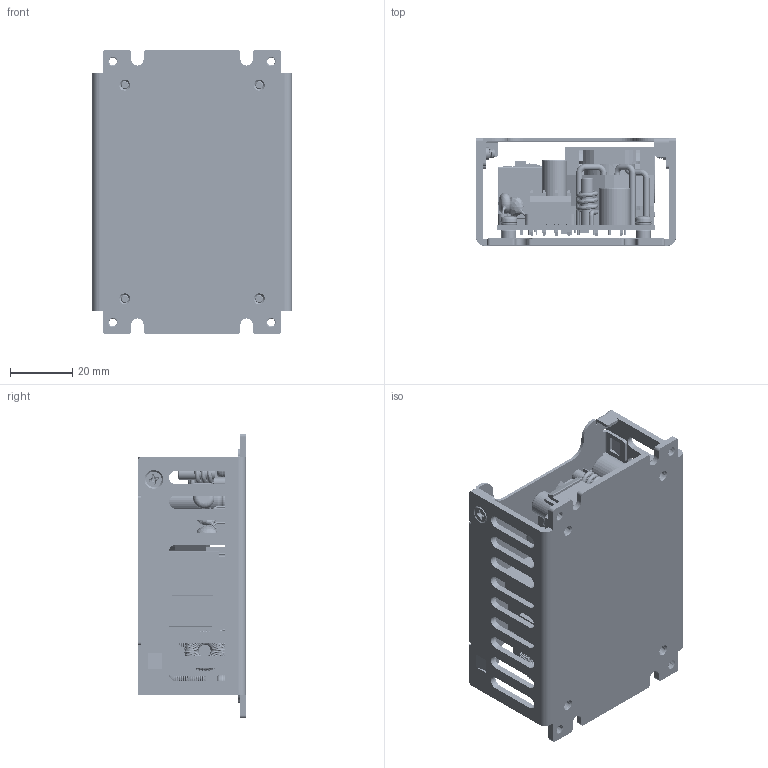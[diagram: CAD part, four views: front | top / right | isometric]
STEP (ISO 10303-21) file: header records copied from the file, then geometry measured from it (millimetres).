
FILE_DESCRIPTION (( 'STEP AP203' ), '1' );
FILE_NAME ('CFM130S(M)XXX-C ¦¨«~¹Ï-1130205.STEP', '2024-07-23T03:50:10', ( 'cincon' ), ( '' ), 'SwSTEP 2.0', 'SolidWorks 2020', '' );
FILE_SCHEMA (( 'CONFIG_CONTROL_DESIGN' ));
Products named in the file (1): CFM130S(M)XXX-C 成品圖-1130205
Bounding box: 64 x 34.5 x 91.4 mm (x, y, z)
Volume: 63567.9 mm3; surface area: 62335.6 mm2
Topology: 6 solids, 19 shells, 3984 faces, 12193 edges, 7762 vertices
Faces by surface type: cylinder 1529, plane 1145, bspline 721, torus 522, cone 60, sphere 7
Entity records: 264555 total; most frequent: CARTESIAN_POINT 164941, ORIENTED_EDGE 24332, DIRECTION 17978, EDGE_CURVE 12166, VERTEX_POINT 7762, AXIS2_PLACEMENT_3D 6853, EDGE_LOOP 4308, VECTOR 4272
